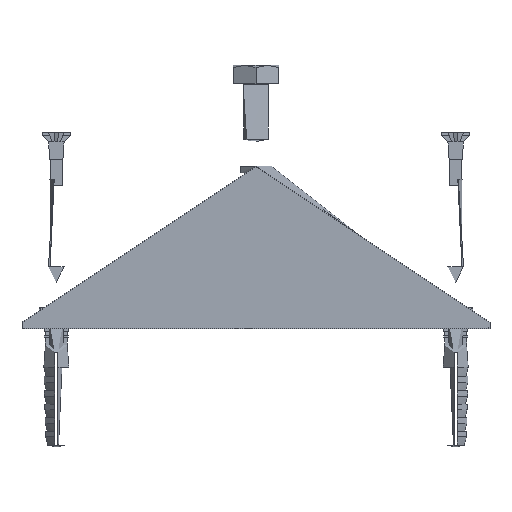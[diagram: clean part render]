
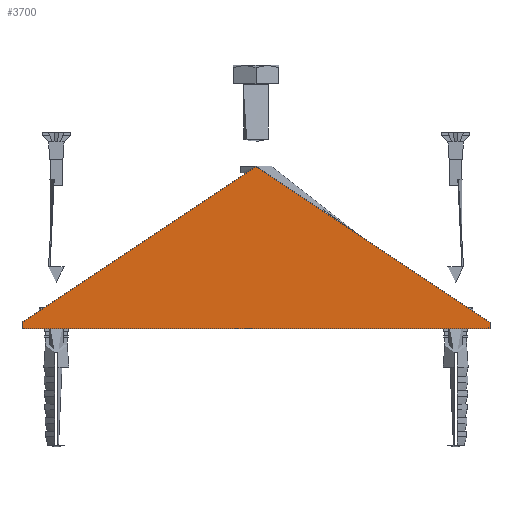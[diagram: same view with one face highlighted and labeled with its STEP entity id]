
A CAD part, front view. The second image highlights one B-rep face of the part: STEP entity #3700.
In plain terms, the highlighted planar face has unit normal (0, -1, 0).
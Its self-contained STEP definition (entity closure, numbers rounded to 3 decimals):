
#830=(
BOUNDED_CURVE()
B_SPLINE_CURVE(2,(#24661,#24662,#24663,#24664,#24665,#24666,#24667,#24668,
#24669,#24670,#24671),.UNSPECIFIED.,.F.,.F.)
B_SPLINE_CURVE_WITH_KNOTS((3,2,2,2,2,3),(15.,27.528,31.956,
84.15,86.364,120.128),.UNSPECIFIED.)
CURVE()
GEOMETRIC_REPRESENTATION_ITEM()
RATIONAL_B_SPLINE_CURVE((1.,1.,1.,0.851,1.,1.,1.,0.851,
1.,1.,1.))
REPRESENTATION_ITEM($)
);
#831=(
BOUNDED_CURVE()
B_SPLINE_CURVE(2,(#24672,#24673,#24674,#24675,#24676,#24677,#24678,#24679,
#24680,#24681,#24682),.UNSPECIFIED.,.F.,.F.)
B_SPLINE_CURVE_WITH_KNOTS((3,2,2,2,2,3),(334.385,368.148,
370.363,422.556,426.985,439.513),.UNSPECIFIED.)
CURVE()
GEOMETRIC_REPRESENTATION_ITEM()
RATIONAL_B_SPLINE_CURVE((1.,1.,1.,0.851,1.,1.,1.,0.851,
1.,1.,1.))
REPRESENTATION_ITEM($)
);
#832=(
BOUNDED_CURVE()
B_SPLINE_CURVE(2,(#24685,#24686,#24687,#24688,#24689,#24690,#24691,#24692,
#24693,#24694,#24695,#24696,#24697,#24698,#24699,#24700,#24701,#24702,#24703,
#24704,#24705),.UNSPECIFIED.,.F.,.F.)
B_SPLINE_CURVE_WITH_KNOTS((3,2,2,2,2,2,2,2,2,2,3),(122.128,155.892,
160.321,212.514,214.729,227.256,239.784,
241.999,294.192,298.621,332.385),.UNSPECIFIED.)
CURVE()
GEOMETRIC_REPRESENTATION_ITEM()
RATIONAL_B_SPLINE_CURVE((1.,1.,1.,0.851,1.,1.,1.,0.851,
1.,1.,1.,1.,1.,0.851,1.,1.,1.,0.851,1.,1.,1.))
REPRESENTATION_ITEM($)
);
#3700=ADVANCED_FACE($,(#3993),#8257,.T.);
#3993=FACE_OUTER_BOUND($,#4294,.T.);
#4294=EDGE_LOOP($,(#5546,#5547,#5548,#5549,#5550));
#5546=ORIENTED_EDGE($,*,*,#6862,.F.);
#5547=ORIENTED_EDGE($,*,*,#6863,.F.);
#5548=ORIENTED_EDGE($,*,*,#6864,.F.);
#5549=ORIENTED_EDGE($,*,*,#6865,.F.);
#5550=ORIENTED_EDGE($,*,*,#6861,.F.);
#6861=EDGE_CURVE($,#8064,#8068,#830,.T.);
#6862=EDGE_CURVE($,#8065,#8064,#831,.T.);
#6863=EDGE_CURVE($,#8066,#8065,#8993,.T.);
#6864=EDGE_CURVE($,#8067,#8066,#832,.T.);
#6865=EDGE_CURVE($,#8068,#8067,#8994,.T.);
#8064=VERTEX_POINT($,#24709);
#8065=VERTEX_POINT($,#24710);
#8066=VERTEX_POINT($,#24711);
#8067=VERTEX_POINT($,#24712);
#8068=VERTEX_POINT($,#24713);
#8257=PLANE($,#9166);
#8993=B_SPLINE_CURVE_WITH_KNOTS($,1,(#24683,#24684),.UNSPECIFIED.,.F.,.F.,
(2,2),(332.385,334.385),.UNSPECIFIED.);
#8994=B_SPLINE_CURVE_WITH_KNOTS($,1,(#24706,#24707),.UNSPECIFIED.,.F.,.F.,
(2,2),(120.128,122.128),.UNSPECIFIED.);
#9166=AXIS2_PLACEMENT_3D($,#24708,#9248,$);
#9248=DIRECTION($,(0.,-1.,0.));
#24661=CARTESIAN_POINT($,(0.,-10.,0.));
#24662=CARTESIAN_POINT($,(6.264,-10.,0.));
#24663=CARTESIAN_POINT($,(12.528,-10.,0.));
#24664=CARTESIAN_POINT($,(15.,-10.,0.));
#24665=CARTESIAN_POINT($,(16.106,-10.,-2.211));
#24666=CARTESIAN_POINT($,(27.776,-10.,-25.553));
#24667=CARTESIAN_POINT($,(39.447,-10.,-48.894));
#24668=CARTESIAN_POINT($,(40.,-10.,-50.));
#24669=CARTESIAN_POINT($,(41.236,-10.,-50.));
#24670=CARTESIAN_POINT($,(58.118,-10.,-50.));
#24671=CARTESIAN_POINT($,(75.,-10.,-50.));
#24672=CARTESIAN_POINT($,(-75.,-10.,-50.));
#24673=CARTESIAN_POINT($,(-58.118,-10.,-50.));
#24674=CARTESIAN_POINT($,(-41.236,-10.,-50.));
#24675=CARTESIAN_POINT($,(-40.,-10.,-50.));
#24676=CARTESIAN_POINT($,(-39.447,-10.,-48.894));
#24677=CARTESIAN_POINT($,(-27.776,-10.,-25.553));
#24678=CARTESIAN_POINT($,(-16.106,-10.,-2.211));
#24679=CARTESIAN_POINT($,(-15.,-10.,0.));
#24680=CARTESIAN_POINT($,(-12.528,-10.,0.));
#24681=CARTESIAN_POINT($,(-6.264,-10.,0.));
#24682=CARTESIAN_POINT($,(0.,-10.,0.));
#24683=CARTESIAN_POINT($,(-75.,-10.,-52.));
#24684=CARTESIAN_POINT($,(-75.,-10.,-50.));
#24685=CARTESIAN_POINT($,(75.,-10.,-52.));
#24686=CARTESIAN_POINT($,(58.118,-10.,-52.));
#24687=CARTESIAN_POINT($,(41.236,-10.,-52.));
#24688=CARTESIAN_POINT($,(38.764,-10.,-52.));
#24689=CARTESIAN_POINT($,(37.658,-10.,-49.789));
#24690=CARTESIAN_POINT($,(25.988,-10.,-26.447));
#24691=CARTESIAN_POINT($,(14.317,-10.,-3.106));
#24692=CARTESIAN_POINT($,(13.764,-10.,-2.));
#24693=CARTESIAN_POINT($,(12.528,-10.,-2.));
#24694=CARTESIAN_POINT($,(6.264,-10.,-2.));
#24695=CARTESIAN_POINT($,(0.,-10.,-2.));
#24696=CARTESIAN_POINT($,(-6.264,-10.,-2.));
#24697=CARTESIAN_POINT($,(-12.528,-10.,-2.));
#24698=CARTESIAN_POINT($,(-13.764,-10.,-2.));
#24699=CARTESIAN_POINT($,(-14.317,-10.,-3.106));
#24700=CARTESIAN_POINT($,(-25.988,-10.,-26.447));
#24701=CARTESIAN_POINT($,(-37.658,-10.,-49.789));
#24702=CARTESIAN_POINT($,(-38.764,-10.,-52.));
#24703=CARTESIAN_POINT($,(-41.236,-10.,-52.));
#24704=CARTESIAN_POINT($,(-58.118,-10.,-52.));
#24705=CARTESIAN_POINT($,(-75.,-10.,-52.));
#24706=CARTESIAN_POINT($,(75.,-10.,-50.));
#24707=CARTESIAN_POINT($,(75.,-10.,-52.));
#24708=CARTESIAN_POINT($,(-75.,-10.,0.));
#24709=CARTESIAN_POINT($,(0.,-10.,0.));
#24710=CARTESIAN_POINT($,(-75.,-10.,-50.));
#24711=CARTESIAN_POINT($,(-75.,-10.,-52.));
#24712=CARTESIAN_POINT($,(75.,-10.,-52.));
#24713=CARTESIAN_POINT($,(75.,-10.,-50.));
